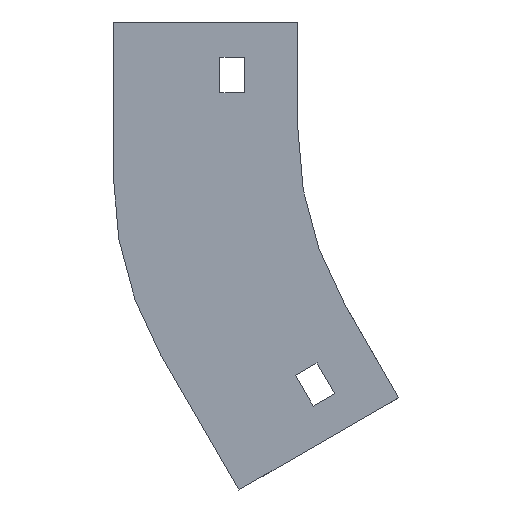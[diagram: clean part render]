
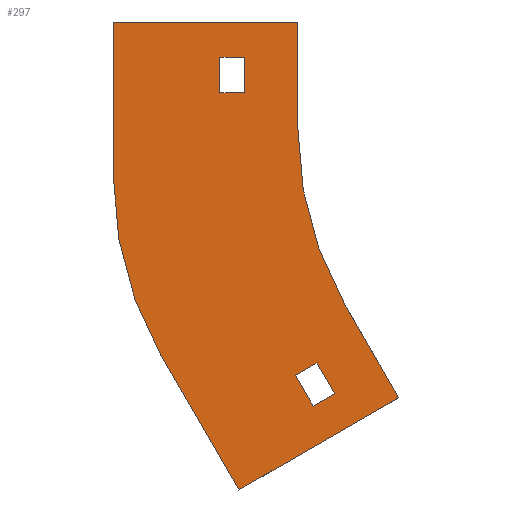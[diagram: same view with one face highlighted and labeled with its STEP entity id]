
A CAD part, left-side view. The second image highlights one B-rep face of the part: STEP entity #297.
In plain terms, the highlighted planar face has unit normal (-1, 0, 0).
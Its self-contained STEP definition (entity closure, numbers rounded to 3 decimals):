
#24 = ORIENTED_EDGE ( 'NONE', *, *, #82, .T. ) ;
#31 = CARTESIAN_POINT ( 'NONE',  ( -152., -4.345, -108.321 ) ) ;
#48 = VECTOR ( 'NONE', #1155, 1000. ) ;
#49 = EDGE_CURVE ( 'NONE', #986, #412, #109, .T. ) ;
#55 = LINE ( 'NONE', #1126, #656 ) ;
#82 = EDGE_CURVE ( 'NONE', #1328, #135, #824, .T. ) ;
#105 = CARTESIAN_POINT ( 'NONE',  ( -152., 16.636, -131.981 ) ) ;
#109 = LINE ( 'NONE', #647, #246 ) ;
#112 = DIRECTION ( 'NONE',  ( 0., 0.5, 0.866 ) ) ;
#135 = VERTEX_POINT ( 'NONE', #908 ) ;
#140 = EDGE_CURVE ( 'NONE', #745, #279, #1329, .T. ) ;
#142 = CIRCLE ( 'NONE', #1039, 100. ) ;
#146 = CARTESIAN_POINT ( 'NONE',  ( -152., -100., -30. ) ) ;
#154 = CARTESIAN_POINT ( 'NONE',  ( -152., 52., 0. ) ) ;
#156 = CARTESIAN_POINT ( 'NONE',  ( -152., -28.397, -105.981 ) ) ;
#167 = DIRECTION ( 'NONE',  ( 0., 0., 1. ) ) ;
#188 = ORIENTED_EDGE ( 'NONE', *, *, #599, .F. ) ;
#208 = DIRECTION ( 'NONE',  ( 0., -0.5, -0.866 ) ) ;
#212 = VECTOR ( 'NONE', #419, 1000. ) ;
#221 = EDGE_CURVE ( 'NONE', #412, #1305, #755, .T. ) ;
#222 = CARTESIAN_POINT ( 'NONE',  ( -152., -4.345, -108.321 ) ) ;
#235 = DIRECTION ( 'NONE',  ( -1., 0., 0. ) ) ;
#243 = EDGE_CURVE ( 'NONE', #1216, #375, #439, .T. ) ;
#244 = EDGE_CURVE ( 'NONE', #403, #950, #537, .T. ) ;
#246 = VECTOR ( 'NONE', #1064, 1000. ) ;
#260 = ORIENTED_EDGE ( 'NONE', *, *, #140, .T. ) ;
#279 = VERTEX_POINT ( 'NONE', #622 ) ;
#284 = ORIENTED_EDGE ( 'NONE', *, *, #243, .F. ) ;
#288 = CARTESIAN_POINT ( 'NONE',  ( -152., 22., -10. ) ) ;
#297 = ADVANCED_FACE ( 'NONE', ( #942, #1385, #1397 ), #316, .T. ) ;
#299 = LINE ( 'NONE', #723, #48 ) ;
#311 = VECTOR ( 'NONE', #1232, 1000. ) ;
#316 = PLANE ( 'NONE',  #954 ) ;
#347 = CIRCLE ( 'NONE', #861, 100. ) ;
#349 = EDGE_CURVE ( 'NONE', #1305, #933, #1204, .T. ) ;
#375 = VERTEX_POINT ( 'NONE', #31 ) ;
#393 = DIRECTION ( 'NONE',  ( 0., 0.866, -0.5 ) ) ;
#398 = EDGE_CURVE ( 'NONE', #135, #745, #871, .T. ) ;
#399 = LINE ( 'NONE', #825, #559 ) ;
#403 = VERTEX_POINT ( 'NONE', #789 ) ;
#412 = VERTEX_POINT ( 'NONE', #154 ) ;
#415 = CARTESIAN_POINT ( 'NONE',  ( -152., -10.407, -104.821 ) ) ;
#419 = DIRECTION ( 'NONE',  ( 0., -1., 0. ) ) ;
#425 = VECTOR ( 'NONE', #112, 1000. ) ;
#432 = DIRECTION ( 'NONE',  ( 0., -0.5, -0.866 ) ) ;
#439 = LINE ( 'NONE', #222, #971 ) ;
#441 = ORIENTED_EDGE ( 'NONE', *, *, #1179, .F. ) ;
#460 = DIRECTION ( 'NONE',  ( 0., 0., -1. ) ) ;
#466 = VERTEX_POINT ( 'NONE', #729 ) ;
#468 = CARTESIAN_POINT ( 'NONE',  ( -152., 15., -10. ) ) ;
#489 = LINE ( 'NONE', #288, #672 ) ;
#505 = VERTEX_POINT ( 'NONE', #1295 ) ;
#509 = ORIENTED_EDGE ( 'NONE', *, *, #349, .F. ) ;
#537 = LINE ( 'NONE', #105, #425 ) ;
#547 = ORIENTED_EDGE ( 'NONE', *, *, #49, .F. ) ;
#549 = ORIENTED_EDGE ( 'NONE', *, *, #676, .F. ) ;
#553 = EDGE_CURVE ( 'NONE', #279, #1328, #489, .T. ) ;
#559 = VECTOR ( 'NONE', #208, 1000. ) ;
#573 = DIRECTION ( 'NONE',  ( 0., 0., 1. ) ) ;
#599 = EDGE_CURVE ( 'NONE', #375, #1201, #55, .T. ) ;
#616 = EDGE_LOOP ( 'NONE', ( #441, #188, #284, #1192 ) ) ;
#622 = CARTESIAN_POINT ( 'NONE',  ( -152., 22., -20. ) ) ;
#627 = LINE ( 'NONE', #846, #1013 ) ;
#633 = ORIENTED_EDGE ( 'NONE', *, *, #1122, .F. ) ;
#647 = CARTESIAN_POINT ( 'NONE',  ( -152., 52., -43.933 ) ) ;
#656 = VECTOR ( 'NONE', #1144, 1000. ) ;
#672 = VECTOR ( 'NONE', #167, 1000. ) ;
#676 = EDGE_CURVE ( 'NONE', #933, #466, #347, .T. ) ;
#679 = VECTOR ( 'NONE', #718, 1000. ) ;
#699 = CARTESIAN_POINT ( 'NONE',  ( -152., 0.655, -99.66 ) ) ;
#703 = ORIENTED_EDGE ( 'NONE', *, *, #1311, .F. ) ;
#718 = DIRECTION ( 'NONE',  ( 0., 1., 0. ) ) ;
#723 = CARTESIAN_POINT ( 'NONE',  ( -152., -28.397, -105.981 ) ) ;
#728 = CARTESIAN_POINT ( 'NONE',  ( -152., 38.603, -93.933 ) ) ;
#729 = CARTESIAN_POINT ( 'NONE',  ( -152., -13.397, -80. ) ) ;
#745 = VERTEX_POINT ( 'NONE', #790 ) ;
#755 = LINE ( 'NONE', #764, #212 ) ;
#764 = CARTESIAN_POINT ( 'NONE',  ( -152., 52., 0. ) ) ;
#775 = DIRECTION ( 'NONE',  ( -1., 0., 0. ) ) ;
#786 = EDGE_LOOP ( 'NONE', ( #24, #817, #260, #1041 ) ) ;
#789 = CARTESIAN_POINT ( 'NONE',  ( -152., 16.636, -131.981 ) ) ;
#790 = CARTESIAN_POINT ( 'NONE',  ( -152., 15., -20. ) ) ;
#809 = EDGE_LOOP ( 'NONE', ( #915, #547, #1254, #1314, #703, #633, #549, #509 ) ) ;
#817 = ORIENTED_EDGE ( 'NONE', *, *, #398, .T. ) ;
#824 = LINE ( 'NONE', #1364, #311 ) ;
#825 = CARTESIAN_POINT ( 'NONE',  ( -152., -13.397, -80. ) ) ;
#835 = DIRECTION ( 'NONE',  ( 1., 0., 0. ) ) ;
#846 = CARTESIAN_POINT ( 'NONE',  ( -152., -10.407, -104.821 ) ) ;
#858 = CARTESIAN_POINT ( 'NONE',  ( -152., -48., -43.933 ) ) ;
#861 = AXIS2_PLACEMENT_3D ( 'NONE', #146, #775, #573 ) ;
#863 = CARTESIAN_POINT ( 'NONE',  ( -152., 0., 0. ) ) ;
#871 = LINE ( 'NONE', #468, #962 ) ;
#889 = VECTOR ( 'NONE', #998, 1000. ) ;
#908 = CARTESIAN_POINT ( 'NONE',  ( -152., 15., -10. ) ) ;
#914 = CARTESIAN_POINT ( 'NONE',  ( -152., 0.655, -99.66 ) ) ;
#915 = ORIENTED_EDGE ( 'NONE', *, *, #221, .F. ) ;
#933 = VERTEX_POINT ( 'NONE', #1233 ) ;
#942 = FACE_BOUND ( 'NONE', #786, .T. ) ;
#950 = VERTEX_POINT ( 'NONE', #728 ) ;
#954 = AXIS2_PLACEMENT_3D ( 'NONE', #1174, #235, #1084 ) ;
#962 = VECTOR ( 'NONE', #460, 1000. ) ;
#971 = VECTOR ( 'NONE', #432, 1000. ) ;
#972 = EDGE_CURVE ( 'NONE', #950, #986, #142, .T. ) ;
#986 = VERTEX_POINT ( 'NONE', #1066 ) ;
#998 = DIRECTION ( 'NONE',  ( 0., 0., -1. ) ) ;
#1013 = VECTOR ( 'NONE', #1178, 1000. ) ;
#1039 = AXIS2_PLACEMENT_3D ( 'NONE', #858, #835, #1260 ) ;
#1040 = LINE ( 'NONE', #914, #1070 ) ;
#1041 = ORIENTED_EDGE ( 'NONE', *, *, #553, .T. ) ;
#1064 = DIRECTION ( 'NONE',  ( 0., 0., 1. ) ) ;
#1066 = CARTESIAN_POINT ( 'NONE',  ( -152., 52., -43.933 ) ) ;
#1070 = VECTOR ( 'NONE', #393, 1000. ) ;
#1084 = DIRECTION ( 'NONE',  ( 0., 0., 1. ) ) ;
#1122 = EDGE_CURVE ( 'NONE', #466, #1302, #399, .T. ) ;
#1126 = CARTESIAN_POINT ( 'NONE',  ( -152., -4.345, -108.321 ) ) ;
#1144 = DIRECTION ( 'NONE',  ( 0., -0.866, 0.5 ) ) ;
#1148 = CARTESIAN_POINT ( 'NONE',  ( -152., 0., 0. ) ) ;
#1155 = DIRECTION ( 'NONE',  ( 0., 0.866, -0.5 ) ) ;
#1174 = CARTESIAN_POINT ( 'NONE',  ( -152., -100., -30. ) ) ;
#1178 = DIRECTION ( 'NONE',  ( 0., 0.5, 0.866 ) ) ;
#1179 = EDGE_CURVE ( 'NONE', #1201, #505, #627, .T. ) ;
#1192 = ORIENTED_EDGE ( 'NONE', *, *, #1270, .F. ) ;
#1201 = VERTEX_POINT ( 'NONE', #415 ) ;
#1204 = LINE ( 'NONE', #863, #889 ) ;
#1216 = VERTEX_POINT ( 'NONE', #699 ) ;
#1232 = DIRECTION ( 'NONE',  ( 0., -1., 0. ) ) ;
#1233 = CARTESIAN_POINT ( 'NONE',  ( -152., 0., -30. ) ) ;
#1243 = CARTESIAN_POINT ( 'NONE',  ( -152., 22., -20. ) ) ;
#1254 = ORIENTED_EDGE ( 'NONE', *, *, #972, .F. ) ;
#1260 = DIRECTION ( 'NONE',  ( 0., 0., -1. ) ) ;
#1264 = CARTESIAN_POINT ( 'NONE',  ( -152., 22., -10. ) ) ;
#1270 = EDGE_CURVE ( 'NONE', #505, #1216, #1040, .T. ) ;
#1295 = CARTESIAN_POINT ( 'NONE',  ( -152., -5.407, -96.16 ) ) ;
#1302 = VERTEX_POINT ( 'NONE', #156 ) ;
#1305 = VERTEX_POINT ( 'NONE', #1148 ) ;
#1311 = EDGE_CURVE ( 'NONE', #1302, #403, #299, .T. ) ;
#1314 = ORIENTED_EDGE ( 'NONE', *, *, #244, .F. ) ;
#1328 = VERTEX_POINT ( 'NONE', #1264 ) ;
#1329 = LINE ( 'NONE', #1243, #679 ) ;
#1364 = CARTESIAN_POINT ( 'NONE',  ( -152., 22., -10. ) ) ;
#1385 = FACE_OUTER_BOUND ( 'NONE', #809, .T. ) ;
#1397 = FACE_BOUND ( 'NONE', #616, .T. ) ;
